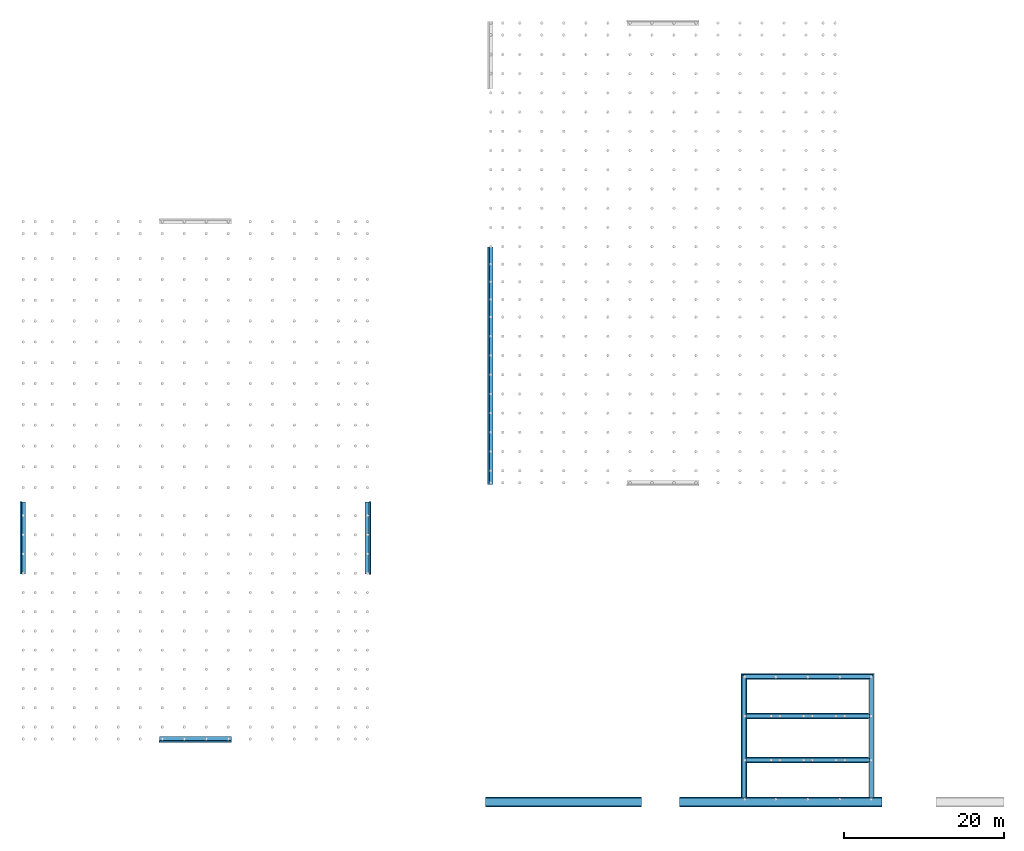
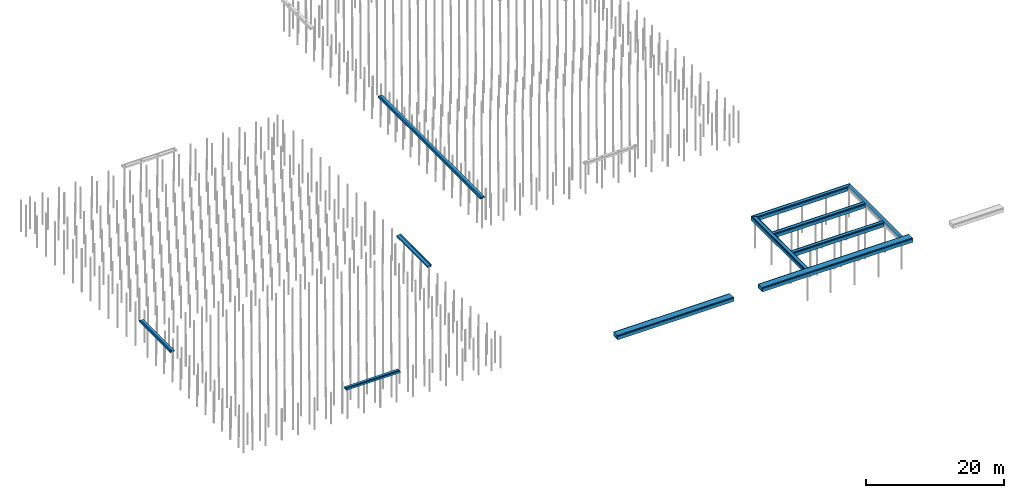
# One storey, part 2 of 102: 21 beams.
"""IFC2X3 building model written with IfcOpenShell, lengths in millimetres."""

from ifc_helpers import new_model, entity, si_unit, converted_unit, derived_unit, money_unit, direction, frame, origin_with_axes, place, context, subcontext, project, spatial, faceted_brep, material, type_object, element, save


model = new_model("IFC2X3")

# Units and contexts
model_context = context("Model", 3, precision=0.01, world=origin_with_axes(), true_north=direction((0.0, 1.0)))
body_context = subcontext(model_context, "Body", "Model", "MODEL_VIEW")
ifc_project = project(units=[si_unit("LENGTHUNIT", "METRE", prefix="MILLI"), si_unit("AREAUNIT", "SQUARE_METRE"), si_unit("VOLUMEUNIT", "CUBIC_METRE"), converted_unit("PLANEANGLEUNIT", "DEGREE", entity("IfcPlaneAngleMeasure", 0.0174532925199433), si_unit("PLANEANGLEUNIT", "RADIAN"), dimensions=[0, 0, 0, 0, 0, 0, 0]), money_unit("EUR"), converted_unit("TIMEUNIT", "Year", entity("IfcTimeMeasure", 31557600.0), si_unit("TIMEUNIT", "SECOND"), dimensions=[0, 0, 1, 0, 0, 0, 0]), si_unit("MASSUNIT", "GRAM", prefix="KILO"), si_unit("THERMODYNAMICTEMPERATUREUNIT", "DEGREE_CELSIUS"), si_unit("LUMINOUSINTENSITYUNIT", "LUMEN"), si_unit("ENERGYUNIT", "JOULE", prefix="MEGA"), derived_unit("THERMALCONDUCTANCEUNIT", [(si_unit("POWERUNIT", "WATT"), 1), (si_unit("LENGTHUNIT", "METRE"), -1), (si_unit("THERMODYNAMICTEMPERATUREUNIT", "KELVIN"), -1)]), derived_unit("SPECIFICHEATCAPACITYUNIT", [(si_unit("ENERGYUNIT", "JOULE"), 1), (si_unit("MASSUNIT", "GRAM", prefix="KILO"), -1), (si_unit("THERMODYNAMICTEMPERATUREUNIT", "KELVIN"), -1)]), derived_unit("MASSDENSITYUNIT", [(si_unit("MASSUNIT", "GRAM", prefix="KILO"), 1), (si_unit("VOLUMEUNIT", "CUBIC_METRE"), -1)])], contexts=[model_context])

# Site, building, storey
site_placement = place(None, origin_with_axes())
site = spatial("IfcSite", under=ifc_project, at=site_placement, Name="Site", CompositionType="ELEMENT")
building_placement = place(site_placement, origin_with_axes())
building = spatial("IfcBuilding", under=site, at=building_placement, Name="Naam gebouw", CompositionType="ELEMENT")
storey_placement = place(building_placement, frame((0.0, 0.0, -1020.0), z_axis=(0.0, 0.0, 1.0), x_axis=(1.0, 0.0, 0.0)))
storey = spatial("IfcBuildingStorey", under=building, at=storey_placement, Name="-2 fundering", CompositionType="ELEMENT", Elevation=-1020.0)

# Beams
ifc_material_1 = material(Name="Beton gewapend C")
beam_type_1 = type_object("IfcBeamType", Name="Beton gewapend C 500 x 600", PredefinedType="BEAM")
beam_1_placement = place(storey_placement, frame((115400.0, 22450.0, 600.0000000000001), z_axis=(0.0, 0.0, 1.0), x_axis=(1.0, 0.0, 0.0)))
element("IfcBeam", 1, at=beam_1_placement, inside=storey, type_object=beam_type_1, material=ifc_material_1, Name="Balk-x", ObjectType="BEAM", context=body_context, shape_type="Brep", body=[
    faceted_brep([(-200.0000000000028, 15700.00000000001, 0.0), (-200.0000000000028, 299.9999999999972, 0.0), (300.0000000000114, 299.9999999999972, 0.0), (299.9999999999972, 15200.00000000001, 0.0), (-200.0000000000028, 15700.00000000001, -600.0000000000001), (-200.0000000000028, 299.9999999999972, -600.0000000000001), (299.9999999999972, 299.9999999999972, -600.0000000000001), (299.9999999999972, 15200.00000000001, -600.0000000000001)], [[[0, 1, 2, 3]], [[4, 5, 1, 0]], [[5, 6, 2, 1]], [[3, 2, 6, 7]], [[0, 3, 7, 4]], [[7, 6, 5, 4]]]),
])
beam_2_placement = place(storey_placement, frame((115400.0, 37950.0, 600.0000000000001), z_axis=(0.0, 0.0, 1.0), x_axis=(0.0, -1.0, 0.0)))
element("IfcBeam", 2, at=beam_2_placement, inside=storey, type_object=beam_type_1, material=ifc_material_1, Name="Balk-x", ObjectType="BEAM", context=body_context, shape_type="Brep", body=[
    faceted_brep([(-200.0000000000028, -200.0000000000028, -600.0000000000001), (-200.0000000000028, 16199.99999999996, -600.0000000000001), (299.9999999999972, 15699.99999999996, -600.0000000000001), (299.9999999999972, 299.9999999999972, -600.0000000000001), (-200.0000000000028, -200.0000000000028, 0.0), (-200.0000000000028, 16199.99999999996, 0.0), (299.9999999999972, 15699.99999999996, 0.0), (299.9999999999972, 299.9999999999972, 0.0)], [[[0, 1, 2, 3]], [[4, 5, 1, 0]], [[2, 1, 5, 6]], [[3, 2, 6, 7]], [[4, 0, 3, 7]], [[7, 6, 5, 4]]]),
])
beam_3_placement = place(storey_placement, frame((131400.0, 37950.0, 600.0000000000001), z_axis=(0.0, 0.0, 1.0), x_axis=(-1.0, 0.0, 0.0)))
element("IfcBeam", 3, at=beam_3_placement, inside=storey, type_object=beam_type_1, material=ifc_material_1, Name="Balk-x", ObjectType="BEAM", context=body_context, shape_type="Brep", body=[
    faceted_brep([(300.0000000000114, 299.9999999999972, 0.0), (300.0000000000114, 15200.00000000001, 0.0), (-199.9999999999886, 15200.00000000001, 0.0), (-199.9999999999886, -200.0000000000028, 0.0), (300.0000000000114, 299.9999999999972, -600.0000000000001), (300.0000000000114, 15200.00000000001, -600.0000000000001), (-199.9999999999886, 15200.00000000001, -600.0000000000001), (-199.9999999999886, -200.0000000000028, -600.0000000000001)], [[[0, 1, 2, 3]], [[4, 5, 1, 0]], [[5, 6, 2, 1]], [[3, 2, 6, 7]], [[4, 0, 3, 7]], [[7, 6, 5, 4]]]),
])
beam_4_placement = place(storey_placement, frame((131400.0, 27450.0, 600.0000000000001), z_axis=(0.0, 0.0, 1.0), x_axis=(0.0, 1.0, 0.0)))
element("IfcBeam", 4, at=beam_4_placement, inside=storey, type_object=beam_type_1, material=ifc_material_1, Name="Balk-x", ObjectType="BEAM", context=body_context, shape_type="Brep", body=[
    faceted_brep([(250.0, 300.0000000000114, -600.0000000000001), (250.0000000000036, 15699.99999999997, -600.0000000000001), (250.0, 15699.99999999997, 0.0), (250.0, 300.0000000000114, 0.0), (-250.0, 300.0000000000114, -600.0000000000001), (-250.0, 15699.99999999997, -600.0000000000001), (-250.0, 15699.99999999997, 0.0), (-250.0, 300.0000000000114, 0.0)], [[[0, 1, 2, 3]], [[4, 5, 1, 0]], [[5, 6, 2, 1]], [[3, 2, 6, 7]], [[7, 4, 0, 3]], [[7, 6, 5, 4]]]),
])
beam_5_placement = place(storey_placement, frame((131400.0, 32950.0, 600.0000000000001), z_axis=(0.0, 0.0, 1.0), x_axis=(0.0, 1.0, 0.0)))
element("IfcBeam", 5, at=beam_5_placement, inside=storey, type_object=beam_type_1, material=ifc_material_1, Name="Balk-x", ObjectType="BEAM", context=body_context, shape_type="Brep", body=[
    faceted_brep([(250.0, 300.0000000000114, -600.0000000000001), (250.0, 15699.99999999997, -600.0000000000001), (250.0, 15699.99999999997, 0.0), (250.0, 300.0000000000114, 0.0), (-250.0, 300.0000000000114, -600.0000000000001), (-250.0, 15699.99999999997, -600.0000000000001), (-250.0, 15699.99999999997, 0.0), (-250.0, 300.0000000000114, 0.0)], [[[0, 1, 2, 3]], [[4, 5, 1, 0]], [[5, 6, 2, 1]], [[3, 2, 6, 7]], [[7, 4, 0, 3]], [[7, 6, 5, 4]]]),
])
beam_type_2 = type_object("IfcBeamType", Name="Beton gewapend C 1000 x 600", PredefinedType="BEAM")
beam_6_placement = place(storey_placement, frame((132650.0, 22449.99999999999, 600.0000000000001), z_axis=(0.0, 0.0, 1.0), x_axis=(0.0, 1.0, 0.0)))
element("IfcBeam", 6, at=beam_6_placement, inside=storey, type_object=beam_type_2, material=ifc_material_1, Name="Balk-x", ObjectType="BEAM", context=body_context, shape_type="Brep", body=[
    faceted_brep([(-699.9999999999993, 0.0, -600.0000000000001), (-699.9999999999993, 25249.99999999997, -600.0000000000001), (300.0000000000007, 25249.99999999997, -600.0000000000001), (300.0000000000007, 0.0, -600.0000000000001), (-699.9999999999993, 0.0, 0.0), (-699.9999999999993, 25249.99999999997, 0.0), (300.0000000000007, 25249.99999999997, 0.0), (300.0000000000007, 0.0, 0.0)], [[[0, 1, 2, 3]], [[4, 5, 1, 0]], [[2, 1, 5, 6]], [[3, 2, 6, 7]], [[4, 0, 3, 7]], [[7, 6, 5, 4]]]),
])
beam_7_placement = place(storey_placement, frame((102650.0, 22449.99999999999, 600.0000000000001), z_axis=(0.0, 0.0, 1.0), x_axis=(0.0, 1.0, 0.0)))
element("IfcBeam", 7, at=beam_7_placement, inside=storey, type_object=beam_type_2, material=ifc_material_1, Name="Balk-x", ObjectType="BEAM", context=body_context, shape_type="Brep", body=[
    faceted_brep([(-699.9999999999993, 0.0, -600.0000000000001), (-699.9999999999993, 19500.0, -600.0000000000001), (300.0000000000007, 19500.0, -600.0000000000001), (300.0000000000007, 0.0, -600.0000000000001), (-699.9999999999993, 0.0, 0.0), (-699.9999999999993, 19500.0, 0.0), (300.0000000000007, 19500.0, 0.0), (300.0000000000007, 0.0, 0.0)], [[[0, 1, 2, 3]], [[4, 5, 1, 0]], [[2, 1, 5, 6]], [[3, 2, 6, 7]], [[4, 0, 3, 7]], [[7, 6, 5, 4]]]),
])
ifc_material_2 = material(Name="Isolatie - Kunststof hard")
beam_type_3 = type_object("IfcBeamType", Name="Fundering - EPS bekisting KME 1240 x 720", PredefinedType="BEAM")
beam_8_placement = place(storey_placement, frame((102650.0, 22250.0, 600.0000000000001), z_axis=(0.0, 0.0, 1.0), x_axis=(0.0, 1.0, 0.0)))
element("IfcBeam", 8, at=beam_8_placement, inside=storey, type_object=beam_type_3, material=ifc_material_2, Name="wvb.", ObjectType="BEAM", context=body_context, shape_type="Brep", body=[
    faceted_brep([(-461.8644067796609, 0.0, -600.0000000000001), (461.8644067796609, 0.0, -600.0000000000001), (461.8644067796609, 19500.0, -600.0000000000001), (-461.8644067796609, 19500.0, -600.0000000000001), (499.9999999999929, 0.0, 0.0), (499.9999999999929, 0.0, -600.0000000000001), (-500.0000000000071, 0.0, -600.0000000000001), (-500.0000000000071, 0.0, 0.0), (-600.0000000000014, 0.0, 0.0), (-600.0000000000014, 0.0, -101.4342864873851), (-620.000000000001, 0.0, -130.935084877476), (-620.000000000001, 0.0, -720.0), (620.000000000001, 0.0, -720.0), (619.9999999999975, 0.0, -130.935084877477), (599.9999999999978, 0.0, -101.4342864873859), (599.9999999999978, 0.0, 0.0), (499.9999999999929, 19500.0, -600.0000000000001), (499.9999999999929, 19500.0, 0.0), (600.0000000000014, 19500.0, 0.0), (600.0000000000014, 19500.0, -101.4342864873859), (620.000000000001, 19500.0, -130.935084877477), (620.000000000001, 19500.0, -720.0), (-619.9999999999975, 19500.0, -720.0), (-619.9999999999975, 19500.0, -130.935084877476), (-599.9999999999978, 19500.0, -101.4342864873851), (-599.9999999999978, 19500.0, 0.0), (-500.0000000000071, 19500.0, 0.0), (-500.0000000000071, 19500.0, -600.0000000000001)], [[[0, 1, 2, 3]], [[4, 5, 1, 0, 6, 7, 8, 9, 10, 11, 12, 13, 14, 15]], [[2, 1, 5, 16]], [[2, 16, 17, 18, 19, 20, 21, 22, 23, 24, 25, 26, 27, 3]], [[27, 6, 0, 3]], [[16, 5, 4, 17]], [[27, 26, 7, 6]], [[8, 7, 26, 25]], [[9, 8, 25, 24]], [[10, 9, 24, 23]], [[11, 10, 23, 22]], [[12, 11, 22, 21]], [[13, 12, 21, 20]], [[14, 13, 20, 19]], [[15, 14, 19, 18]], [[18, 17, 4, 15]]]),
])
beam_9_placement = place(storey_placement, frame((132650.0, 22249.99999999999, 600.0000000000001), z_axis=(0.0, 0.0, 1.0), x_axis=(0.0, 1.0, 0.0)))
element("IfcBeam", 9, at=beam_9_placement, inside=storey, type_object=beam_type_3, material=ifc_material_2, Name="wvb.", ObjectType="BEAM", context=body_context, shape_type="Brep", body=[
    faceted_brep([(620.000000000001, 17449.99999999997, -130.935084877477), (620.000000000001, 17449.99999999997, -600.0000000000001), (620.000000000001, 16949.99999999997, -600.0000000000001), (620.000000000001, 16949.99999999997, -130.935084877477), (619.9999999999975, 1550.000000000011, -130.935084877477), (620.000000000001, 1550.000000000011, -600.0000000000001), (620.000000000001, 1050.000000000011, -600.0000000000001), (619.9999999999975, 1050.000000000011, -130.935084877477), (619.9999999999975, 0.0, -130.935084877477), (620.000000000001, 0.0, -720.0), (620.000000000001, 25249.99999999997, -720.0), (620.000000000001, 25249.99999999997, -130.935084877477), (500.0, 17449.99999999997, -600.0000000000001), (600.0000000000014, 17449.99999999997, -101.4342864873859), (600.0000000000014, 17449.99999999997, 0.0), (500.0, 17449.99999999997, 0.0), (500.0, 1550.000000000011, -600.0000000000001), (500.0, 16949.99999999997, -600.0000000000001), (500.0, 25249.99999999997, -600.0000000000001), (461.8644067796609, 25249.99999999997, -600.0000000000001), (461.8644067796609, 0.0, -600.0000000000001), (500.0, 0.0, -600.0000000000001), (500.0, 1050.000000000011, -600.0000000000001), (600.0000000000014, 16949.99999999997, 0.0), (600.0000000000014, 16949.99999999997, -101.4342864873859), (500.0, 16949.99999999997, 0.0), (599.9999999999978, 1550.000000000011, -101.4342864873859), (500.0, 1550.000000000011, 0.0), (600.0000000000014, 1550.000000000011, 0.0), (500.0, 1050.000000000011, 0.0), (599.9999999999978, 1050.000000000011, 0.0), (599.9999999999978, 1050.000000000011, -101.4342864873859), (599.9999999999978, 0.0, -101.4342864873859), (599.9999999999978, 0.0, 0.0), (500.0, 0.0, 0.0), (-461.8644067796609, 0.0, -600.0000000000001), (-500.0, 0.0, -600.0000000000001), (-500.0, 0.0, 0.0), (-600.0000000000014, 0.0, 0.0), (-600.0000000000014, 0.0, -101.4342864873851), (-620.000000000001, 0.0, -130.935084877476), (-620.000000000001, 0.0, -720.0), (-619.9999999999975, 25249.99999999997, -720.0), (-500.0, 25249.99999999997, -600.0000000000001), (-461.8644067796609, 25249.99999999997, -600.0000000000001), (500.0, 25249.99999999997, 0.0), (600.0000000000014, 25249.99999999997, 0.0), (600.0000000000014, 25249.99999999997, -101.4342864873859), (-619.9999999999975, 25249.99999999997, -130.935084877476), (-599.9999999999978, 25249.99999999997, -101.4342864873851), (-599.9999999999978, 25249.99999999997, 0.0), (-500.0, 25249.99999999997, 0.0)], [[[0, 1, 2, 3, 4, 5, 6, 7, 8, 9, 10, 11]], [[12, 1, 0, 13, 14, 15]], [[16, 17, 2, 1, 12, 18, 19, 20, 21, 22, 6, 5]], [[23, 24, 3, 2, 17, 25]], [[4, 3, 24, 26]], [[27, 16, 5, 4, 26, 28]], [[29, 30, 31, 7, 6, 22]], [[32, 8, 7, 31]], [[32, 33, 34, 21, 20, 35, 36, 37, 38, 39, 40, 41, 9, 8]], [[42, 10, 9, 41]], [[43, 44, 19, 18, 45, 46, 47, 11, 10, 42, 48, 49, 50, 51]], [[47, 13, 0, 11]], [[46, 14, 13, 47]], [[45, 15, 14, 46]], [[18, 12, 15, 45]], [[27, 25, 17, 16]], [[19, 44, 35, 20]], [[21, 34, 29, 22]], [[26, 24, 23, 28]], [[28, 23, 25, 27]], [[34, 33, 30, 29]], [[33, 32, 31, 30]], [[35, 44, 43, 36]], [[37, 36, 43, 51]], [[51, 50, 38, 37]], [[50, 49, 39, 38]], [[49, 48, 40, 39]], [[48, 42, 41, 40]]]),
])
ifc_material_3 = material(Name="Beton gewapend C vloer")
beam_type_4 = type_object("IfcBeamType", Name="Beton gewapend C vloer 200 x 350", PredefinedType="BEAM")
for number, where, z_axis, x_axis in (
    (10, (42400.0, 29800.00000000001, 474.9999999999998), (0.0, 0.0, 1.0), (0.0, -1.0, 0.0)),
    (11, (25099.99999999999, 59730.00000000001, 474.9999999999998), (0.0, 0.0, 1.0), (-1.0, 0.0, 0.0)),
):
    element("IfcBeam", number, at=place(storey_placement, frame(where, z_axis=z_axis, x_axis=x_axis)), inside=storey, type_object=beam_type_4, material=ifc_material_3, Name="wvb.", ObjectType="BEAM", context=body_context, shape_type="Brep", body=[
        faceted_brep([(100.0000000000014, 0.0, 175.0), (99.99999999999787, 9000.000000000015, 175.0), (-100.0000000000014, 9000.000000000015, 175.0), (-100.0000000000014, 0.0, 175.0), (100.0000000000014, 0.0, -174.9999999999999), (99.99999999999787, 9000.000000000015, -174.9999999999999), (-100.0000000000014, 9000.000000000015, -174.9999999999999), (-100.0000000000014, 0.0, -174.9999999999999)], [[[0, 1, 2, 3]], [[4, 5, 1, 0]], [[2, 1, 5, 6]], [[3, 2, 6, 7]], [[4, 0, 3, 7]], [[7, 6, 5, 4]]]),
    ])
beam_10_placement = place(storey_placement, frame((83499.99999999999, 91539.99997622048, 474.9999999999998), z_axis=(0.0, 0.0, 1.0), x_axis=(-1.0, 0.0, 0.0)))
element("IfcBeam", 12, at=beam_10_placement, inside=storey, type_object=beam_type_4, material=ifc_material_3, Name="wvb.", ObjectType="BEAM", context=body_context, shape_type="Brep", body=[
    faceted_brep([(99.99999999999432, 0.0, 175.0), (99.99999999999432, 29639.99997622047, 175.0), (-100.0000000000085, 29639.99997622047, 175.0), (-99.99999999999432, 0.0, 175.0), (99.99999999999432, 0.0, -174.9999999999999), (99.99999999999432, 29639.99997622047, -174.9999999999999), (-100.0000000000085, 29639.99997622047, -174.9999999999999), (-99.99999999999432, 0.0, -174.9999999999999)], [[[0, 1, 2, 3]], [[4, 5, 1, 0]], [[2, 1, 5, 6]], [[3, 2, 6, 7]], [[4, 0, 3, 7]], [[7, 6, 5, 4]]]),
])
beam_11_placement = place(storey_placement, frame((68699.99999999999, 50700.00000000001, 474.9999999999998), z_axis=(0.0, 0.0, 1.0), x_axis=(1.0, 0.0, 0.0)))
element("IfcBeam", 13, at=beam_11_placement, inside=storey, type_object=beam_type_4, material=ifc_material_3, Name="wvb.", ObjectType="BEAM", context=body_context, shape_type="Brep", body=[
    faceted_brep([(99.99999999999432, 0.0, 175.0), (99.99999999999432, 9000.000000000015, 175.0), (-99.99999999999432, 9000.000000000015, 175.0), (-99.99999999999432, 0.0, 175.0), (99.99999999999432, 0.0, -174.9999999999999), (99.99999999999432, 9000.000000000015, -174.9999999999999), (-99.99999999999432, 9000.000000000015, -174.9999999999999), (-99.99999999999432, 0.0, -174.9999999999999)], [[[0, 1, 2, 3]], [[4, 5, 1, 0]], [[2, 1, 5, 6]], [[3, 2, 6, 7]], [[4, 0, 3, 7]], [[7, 6, 5, 4]]]),
])
beam_type_5 = type_object("IfcBeamType", Name="Beton gewapend C vloer 500 x 300", PredefinedType="BEAM")
beam_12_placement = place(storey_placement, frame((25450.0, 59730.00000000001, 449.9999999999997), z_axis=(0.0, 0.0, 1.0), x_axis=(-1.0, 0.0, 0.0)))
element("IfcBeam", 14, at=beam_12_placement, inside=storey, type_object=beam_type_5, material=ifc_material_3, Name="wvb.", ObjectType="BEAM", context=body_context, shape_type="Brep", body=[
    faceted_brep([(250.0, 0.0, 150.0), (250.0, 9000.000000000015, 150.0), (-250.0, 9000.000000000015, 149.9999999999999), (-250.0, 0.0, 149.9999999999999), (250.0, 0.0, -149.9999999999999), (250.0, 9000.000000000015, -149.9999999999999), (-250.0, 9000.000000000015, -150.0), (-250.0, 0.0, -150.0)], [[[0, 1, 2, 3]], [[4, 5, 1, 0]], [[2, 1, 5, 6]], [[3, 2, 6, 7]], [[4, 0, 3, 7]], [[7, 6, 5, 4]]]),
])
beam_13_placement = place(storey_placement, frame((83850.0, 91539.99997622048, 449.9999999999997), z_axis=(0.0, 0.0, 1.0), x_axis=(-1.0, 0.0, 0.0)))
element("IfcBeam", 15, at=beam_13_placement, inside=storey, type_object=beam_type_5, material=ifc_material_3, Name="wvb.", ObjectType="BEAM", context=body_context, shape_type="Brep", body=[
    faceted_brep([(250.0, 0.0, 150.0), (250.0, 29639.99997622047, 150.0), (-250.0, 29639.99997622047, 149.9999999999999), (-250.0, 0.0, 149.9999999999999), (250.0, 0.0, -149.9999999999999), (250.0, 29639.99997622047, -149.9999999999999), (-250.0, 29639.99997622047, -150.0), (-250.0, 0.0, -150.0)], [[[0, 1, 2, 3]], [[4, 5, 1, 0]], [[2, 1, 5, 6]], [[3, 2, 6, 7]], [[4, 0, 3, 7]], [[7, 6, 5, 4]]]),
])
for number, where, z_axis, x_axis in (
    (16, (42400.0, 30150.00000000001, 449.9999999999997), (0.0, 0.0, 1.0), (0.0, -1.0, 0.0)),
    (17, (68350.0, 50700.00000000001, 449.9999999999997), (0.0, 0.0, 1.0), (1.0, 0.0, 0.0)),
):
    element("IfcBeam", number, at=place(storey_placement, frame(where, z_axis=z_axis, x_axis=x_axis)), inside=storey, type_object=beam_type_5, material=ifc_material_3, Name="wvb.", ObjectType="BEAM", context=body_context, shape_type="Brep", body=[
        faceted_brep([(250.0, 0.0, 150.0), (250.0, 9000.000000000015, 150.0), (-250.0, 9000.000000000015, 149.9999999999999), (-250.0, 0.0, 149.9999999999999), (250.0, 0.0, -149.9999999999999), (250.0, 9000.000000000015, -149.9999999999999), (-250.0, 9000.000000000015, -150.0), (-250.0, 0.0, -150.0)], [[[0, 1, 2, 3]], [[4, 5, 1, 0]], [[2, 1, 5, 6]], [[3, 2, 6, 7]], [[4, 0, 3, 7]], [[7, 6, 5, 4]]]),
    ])
beam_type_6 = type_object("IfcBeamType", Name="Fundering - EPS bekisting KME 740 x 720", PredefinedType="BEAM")
beam_14_placement = place(storey_placement, frame((115450.000024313, 37899.99997568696, 600.0000000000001), z_axis=(0.0, 0.0, 1.0), x_axis=(-1.0, 0.0, 0.0)))
element("IfcBeam", 18, at=beam_14_placement, inside=storey, type_object=beam_type_6, material=ifc_material_2, Name="wvb.", ObjectType="BEAM", context=body_context, shape_type="Brep", body=[
    faceted_brep([(-370.0000000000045, 10199.99997568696, -130.9350848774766), (-370.0000000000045, 5199.999975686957, -130.9350848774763), (-349.9999999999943, 5199.999975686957, -101.4342864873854), (-350.0000000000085, 10199.99997568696, -101.4342864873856), (-370.0000000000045, 10199.99997568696, -600.0000000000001), (-370.0000000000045, 10699.99997568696, -600.0000000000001), (-370.0000000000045, 10699.99997568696, -130.9350848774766), (-370.0000000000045, 15029.99997568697, -130.935084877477), (-370.0000000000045, 15029.99997568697, -720.0), (-370.0000000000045, 369.9999999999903, -720.0), (-370.0000000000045, 369.9999999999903, -130.935084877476), (-370.0000000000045, 4699.999975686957, -130.9350848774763), (-370.0000000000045, 4699.999975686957, -600.0000000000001), (-370.0000000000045, 5199.999975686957, -600.0000000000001), (-250.0, 5199.999975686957, -600.0000000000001), (-250.0, 5199.999975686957, 0.0), (-349.9999999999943, 5199.999975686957, 0.0), (-350.0000000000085, 10199.99997568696, 0.0), (-250.0, 10199.99997568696, 0.0), (-250.0, 10199.99997568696, -600.0000000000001), (-250.0, 10699.99997568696, -600.0000000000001), (-250.0, 10699.99997568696, 0.0), (-350.0000000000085, 10699.99997568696, 0.0), (-350.0000000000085, 10699.99997568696, -101.4342864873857), (-350.0000000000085, 15049.99997568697, -101.4342864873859), (-250.0, 15029.99997568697, -600.0000000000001), (250.0, 15029.99997568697, -600.0000000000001), (250.0, 15029.99997568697, -130.935084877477), (369.9999999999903, 15029.99997568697, -130.935084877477), (370.0000000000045, 15029.99997568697, -720.0), (-250.0, 15029.99997568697, -130.935084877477), (370.0000000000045, -369.9999999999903, -720.0), (370.0000000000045, -369.9999999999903, -130.935084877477), (349.9999999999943, -349.9999999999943, -101.4342864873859), (349.9999999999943, -349.9999999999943, 0.0), (250.0, -249.9999999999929, 0.0), (250.0, -249.9999999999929, -600.0000000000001), (-250.0, 249.9999999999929, -600.0000000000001), (-250.0, 249.9999999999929, 0.0), (-349.9999999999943, 349.9999999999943, 0.0), (-349.9999999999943, 349.9999999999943, -101.4342864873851), (-349.9999999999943, 4699.999975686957, -101.4342864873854), (-349.9999999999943, 4699.999975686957, 0.0), (-250.0, 4699.999975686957, 0.0), (-250.0, 4699.999975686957, -600.0000000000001), (-250.0, 15049.99997568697, -101.4342864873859), (-250.0, 15049.99997568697, 0.0), (-350.0000000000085, 15049.99997568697, 0.0), (250.0, 15049.99997568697, 0.0), (250.0, 15049.99997568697, -101.4342864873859), (349.9999999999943, 15049.99997568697, -101.4342864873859), (349.9999999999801, 15049.99997568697, 0.0)], [[[0, 1, 2, 3]], [[1, 0, 4, 5, 6, 7, 8, 9, 10, 11, 12, 13]], [[13, 14, 15, 16, 2, 1]], [[3, 2, 16, 17]], [[17, 18, 19, 4, 0, 3]], [[4, 19, 20, 5]], [[20, 21, 22, 23, 6, 5]], [[23, 24, 7, 6]], [[25, 26, 27, 28, 29, 8, 7, 30]], [[9, 8, 29, 31]], [[31, 32, 33, 34, 35, 36, 37, 38, 39, 40, 10, 9]], [[41, 11, 10, 40]], [[41, 42, 43, 44, 12, 11]], [[13, 12, 44, 14]], [[18, 15, 14, 19]], [[17, 16, 15, 18]], [[36, 26, 25, 20, 19, 14, 44, 37]], [[30, 45, 46, 21, 20, 25]], [[21, 46, 47, 22]], [[22, 47, 24, 23]], [[30, 7, 24, 45]], [[26, 36, 35, 48, 49, 27]], [[28, 27, 49, 50]], [[31, 29, 28, 32]], [[32, 28, 50, 33]], [[33, 50, 51, 34]], [[34, 51, 48, 35]], [[44, 43, 38, 37]], [[43, 42, 39, 38]], [[42, 41, 40, 39]], [[45, 24, 47, 46]], [[50, 49, 48, 51]]]),
])
beam_15_placement = place(storey_placement, frame((131349.9999756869, 27450.0, 600.0000000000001), z_axis=(0.0, 0.0, 1.0), x_axis=(0.0, 1.0, 0.0)))
element("IfcBeam", 19, at=beam_15_placement, inside=storey, type_object=beam_type_6, material=ifc_material_2, Name="wvb.", ObjectType="BEAM", context=body_context, shape_type="Brep", body=[
    faceted_brep([(349.9999999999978, 350.0000038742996, 3.874305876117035e-06), (350.0000000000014, 15549.99994749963, 3.874305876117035e-06), (250.0, 15549.99994749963, 3.874305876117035e-06), (250.0, 350.0000038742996, 3.874305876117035e-06), (349.9999999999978, 350.0000038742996, -101.434285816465), (350.0000000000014, 15549.99994749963, -101.434285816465), (250.0, 15549.99994749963, -101.434285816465), (250.0, 15529.99995137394, -600.0000000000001), (250.0, 370.0000000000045, -600.0000000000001), (250.0, 370.0000000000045, -130.9350880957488), (250.0, 350.0000038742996, -101.434285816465), (250.0, 15529.99995137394, -130.9350880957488), (370.000000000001, 370.0000000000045, -130.9350880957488), (370.000000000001, 15529.99995137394, -130.9350880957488), (-250.0, 15529.99995137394, -600.0000000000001), (-250.0, 370.0000000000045, -600.0000000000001), (-250.0, 370.0000000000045, -130.9350880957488), (-370.000000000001, 370.0000000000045, -130.9350880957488), (-370.000000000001, 370.0000000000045, -720.0), (370.000000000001, 370.0000000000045, -720.0), (-250.0, 15529.99995137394, -130.9350880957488), (370.000000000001, 15529.99995137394, -720.0), (-370.000000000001, 15529.99995137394, -720.0), (-370.000000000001, 15529.99995137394, -130.9350880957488), (-250.0, 15549.99994749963, 3.874305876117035e-06), (-250.0, 350.0000038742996, 3.874305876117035e-06), (-250.0, 350.0000038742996, -101.434285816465), (-250.0, 15549.99994749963, -101.434285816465), (-350.0000000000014, 350.0000038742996, -101.434285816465), (-349.9999999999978, 15549.99994749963, -101.434285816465), (-349.9999999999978, 15549.99994749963, 3.874305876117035e-06), (-350.0000000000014, 350.0000038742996, 3.874305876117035e-06)], [[[0, 1, 2, 3]], [[4, 5, 1, 0]], [[2, 1, 5, 6]], [[7, 8, 9, 10, 3, 2, 6, 11]], [[0, 3, 10, 4]], [[12, 13, 5, 4]], [[5, 13, 11, 6]], [[8, 7, 14, 15]], [[16, 17, 18, 19, 12, 9, 8, 15]], [[4, 10, 9, 12]], [[20, 14, 7, 11, 13, 21, 22, 23]], [[19, 21, 13, 12]], [[24, 25, 26, 16, 15, 14, 20, 27]], [[26, 28, 17, 16]], [[17, 23, 22, 18]], [[18, 22, 21, 19]], [[27, 20, 23, 29]], [[25, 24, 30, 31]], [[25, 31, 28, 26]], [[30, 24, 27, 29]], [[28, 29, 23, 17]], [[31, 30, 29, 28]]]),
])
beam_16_placement = place(storey_placement, frame((115450.000024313, 32950.0, 600.0000000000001), z_axis=(0.0, 0.0, 1.0), x_axis=(0.0, -1.0, 0.0)))
element("IfcBeam", 20, at=beam_16_placement, inside=storey, type_object=beam_type_6, material=ifc_material_2, Name="wvb.", ObjectType="BEAM", context=body_context, shape_type="Brep", body=[
    faceted_brep([(-350.0000000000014, 15549.99994749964, 3.874305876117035e-06), (-350.0000000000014, 350.0000038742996, 3.874305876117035e-06), (-250.0, 350.0000038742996, 3.874305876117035e-06), (-250.0, 15549.99994749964, 3.874305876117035e-06), (-350.0000000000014, 15549.99994749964, -101.434285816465), (-350.0000000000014, 350.0000038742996, -101.434285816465), (-250.0, 350.0000038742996, -101.434285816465), (-250.0, 370.0000000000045, -600.0000000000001), (-250.0, 15529.99995137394, -600.0000000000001), (-250.0, 15529.99995137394, -130.9350880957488), (-250.0, 15549.99994749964, -101.434285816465), (-250.0, 370.0000000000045, -130.9350880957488), (-369.9999999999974, 15529.99995137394, -130.9350880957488), (-369.9999999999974, 370.0000000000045, -130.9350880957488), (250.0, 370.0000000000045, -600.0000000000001), (250.0, 15529.99995137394, -600.0000000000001), (250.0, 15529.99995137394, -130.9350880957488), (369.9999999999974, 15529.99995137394, -130.9350880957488), (369.9999999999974, 15529.99995137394, -720.0), (-369.9999999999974, 15529.99995137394, -720.0), (250.0, 370.0000000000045, -130.9350880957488), (-369.9999999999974, 370.0000000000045, -720.0), (369.9999999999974, 370.0000000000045, -720.0), (369.9999999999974, 370.0000000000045, -130.9350880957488), (250.0, 350.0000038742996, 3.874305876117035e-06), (250.0, 15549.99994749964, 3.874305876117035e-06), (250.0, 15549.99994749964, -101.434285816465), (250.0, 350.0000038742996, -101.434285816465), (350.0000000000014, 15549.99994749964, -101.434285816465), (350.0000000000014, 350.0000038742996, -101.434285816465), (350.0000000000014, 350.0000038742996, 3.874305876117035e-06), (350.0000000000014, 15549.99994749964, 3.874305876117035e-06)], [[[0, 1, 2, 3]], [[4, 5, 1, 0]], [[2, 1, 5, 6]], [[7, 8, 9, 10, 3, 2, 6, 11]], [[0, 3, 10, 4]], [[12, 13, 5, 4]], [[5, 13, 11, 6]], [[8, 7, 14, 15]], [[16, 17, 18, 19, 12, 9, 8, 15]], [[4, 10, 9, 12]], [[20, 14, 7, 11, 13, 21, 22, 23]], [[19, 21, 13, 12]], [[24, 25, 26, 16, 15, 14, 20, 27]], [[26, 28, 17, 16]], [[17, 23, 22, 18]], [[18, 22, 21, 19]], [[27, 20, 23, 29]], [[25, 24, 30, 31]], [[25, 31, 28, 26]], [[30, 24, 27, 29]], [[28, 29, 23, 17]], [[31, 30, 29, 28]]]),
])
beam_17_placement = place(storey_placement, frame((115450.000024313, 37899.99997568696, 600.0000000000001), z_axis=(0.0, 0.0, 1.0), x_axis=(0.0, -1.0, 0.0)))
element("IfcBeam", 21, at=beam_17_placement, inside=storey, type_object=beam_type_6, material=ifc_material_2, Name="wvb.", ObjectType="BEAM", context=body_context, shape_type="Brep", body=[
    faceted_brep([(-250.0, 16149.99995137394, -600.0000000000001), (-250.0, 16149.99995137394, 0.0), (-250.0, -249.9999999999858, 0.0), (-250.0, -249.9999999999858, -600.0000000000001), (-370.0000000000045, 16269.99995137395, -130.935084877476), (-350.0000000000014, 16249.99995137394, -101.4342864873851), (-350.0000000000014, 16249.99995137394, 0.0), (250.0, 15649.99995137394, -600.0000000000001), (250.0, 15649.99995137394, 0.0), (350.0000000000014, 15549.99995137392, 0.0), (350.0000000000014, 15549.99995137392, -101.4342864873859), (369.9999999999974, 15529.99995137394, -130.935084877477), (369.9999999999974, 15529.99995137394, -720.0), (-369.9999999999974, 16269.99995137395, -720.0), (-350.0000000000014, -349.9999999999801, 0.0), (350.0000000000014, 350.0000000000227, -101.4342864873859), (350.0000000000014, 350.0000000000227, 0.0), (250.0, 250.0000000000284, 0.0), (250.0, 250.0000000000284, -600.0000000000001), (-350.0000000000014, -349.9999999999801, -101.4342864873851), (-369.9999999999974, -369.9999999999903, -130.935084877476), (-369.9999999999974, -369.9999999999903, -720.0), (369.9999999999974, 370.000000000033, -720.0), (369.9999999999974, 370.000000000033, -130.935084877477)], [[[0, 1, 2, 3]], [[4, 5, 6, 1, 0, 7, 8, 9, 10, 11, 12, 13]], [[1, 6, 14, 2]], [[15, 16, 17, 18, 3, 2, 14, 19, 20, 21, 22, 23]], [[7, 0, 3, 18]], [[5, 4, 20, 19]], [[6, 5, 19, 14]], [[8, 7, 18, 17]], [[9, 8, 17, 16]], [[10, 9, 16, 15]], [[11, 10, 15, 23]], [[12, 11, 23, 22]], [[13, 12, 22, 21]], [[4, 13, 21, 20]]]),
])

save(model, "model.ifc")
